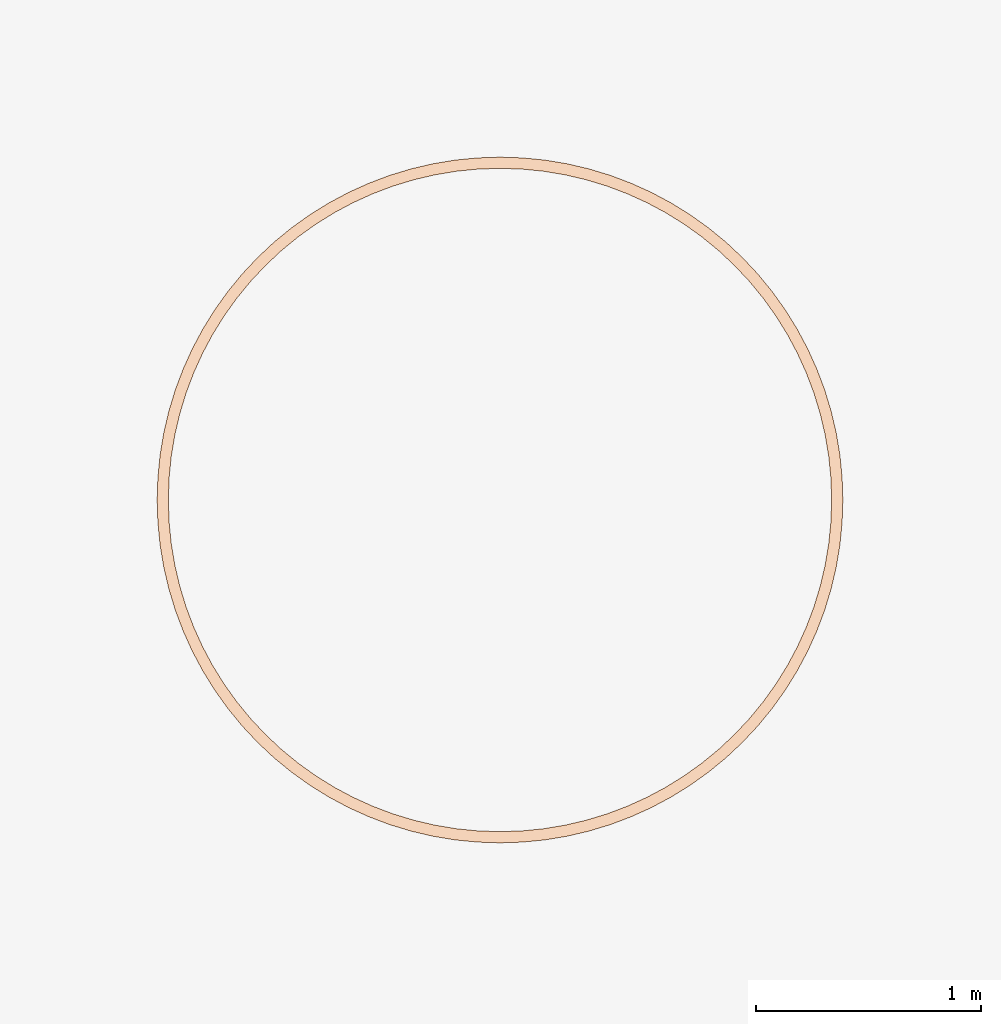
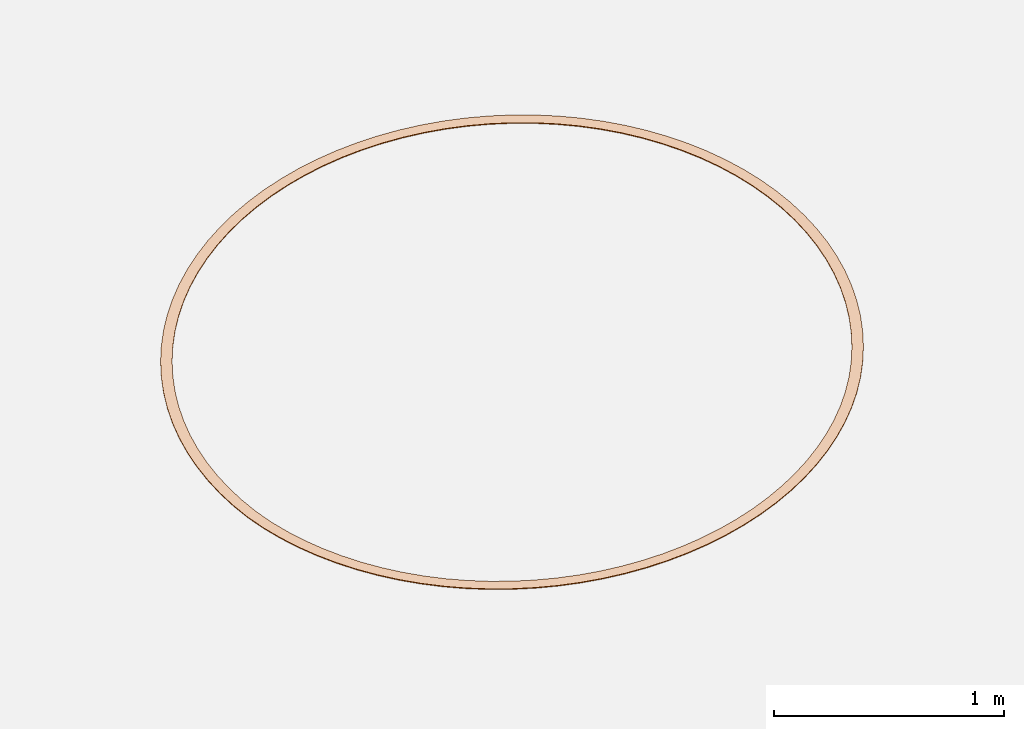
# Not in any storey, part 62 of 72: 1 geographic element.
"""IFC4 model written with IfcOpenShell, lengths in metres."""

from ifc_helpers import new_model, si_unit, direction, frame, origin_with_axes, place, context, subcontext, project, spatial, polygons, material, element, save


model = new_model("IFC4")

# Units and contexts
model_context = context("Model", 3, precision=1e-05, world=origin_with_axes(), true_north=direction((0.0, 1.0)))
body_context = subcontext(model_context, "Body", "Model", "MODEL_VIEW")
ifc_project = project(units=[si_unit("AREAUNIT", "SQUARE_METRE"), si_unit("VOLUMEUNIT", "CUBIC_METRE"), si_unit("LENGTHUNIT", "METRE")], contexts=[model_context])

# Site
site_placement = place(None, origin_with_axes())
site = spatial("IfcSite", under=ifc_project, at=site_placement, Name="Lares · Rua das Mercês · artigo 4771")

# Geographic element
ifc_material = material(Name="Marcação de plantação · linha no terreno", Category="stone")
geographic_element_placement = place(site_placement, frame((0.0, 0.0, 0.0), z_axis=(0.0, 0.0, 1.0), x_axis=(1.0, -1.03767253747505e-17, 0.0)))
element("IfcGeographicElement", 1, at=geographic_element_placement, inside=site, material=ifc_material, Name="Marcação no solo · árvore indicativa 01", ObjectType="Marcação no solo · árvore indicativa 01", PredefinedType="USERDEFINED", context=body_context, shape_type="Tessellation", body=[
    polygons([(0.946365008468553, 14.0429823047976, 12.5790246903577), (0.946365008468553, 14.0429823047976, 12.5830246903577), (0.996365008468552, 14.0429823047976, 12.5833888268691), (0.996365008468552, 14.0429823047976, 12.5873888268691), (0.943206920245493, 14.1394519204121, 12.5883800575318), (0.943206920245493, 14.1394519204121, 12.5923800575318), (0.993099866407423, 14.1427220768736, 12.5930613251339), (0.993099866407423, 14.1427220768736, 12.5970613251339), (0.933746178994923, 14.2355084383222, 12.5971440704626), (0.933746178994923, 14.2355084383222, 12.6011440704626), (0.983318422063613, 14.2420347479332, 12.6021224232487), (0.983318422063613, 14.2420347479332, 12.6061224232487), (0.918023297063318, 14.3307405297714, 12.6052792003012), (0.918023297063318, 14.3307405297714, 12.6092792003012), (0.967062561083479, 14.3404950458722, 12.6105333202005), (0.967062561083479, 14.3404950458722, 12.6145333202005), (0.896105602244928, 14.4247403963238, 12.6127506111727), (0.896105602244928, 14.4247403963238, 12.6167506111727), (0.944401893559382, 14.4376813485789, 12.6182579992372), (0.944401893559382, 14.4376813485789, 12.6222579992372), (0.868086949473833, 14.5171055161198, 12.6195263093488), (0.868086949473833, 14.5171055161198, 12.6235263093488), (0.915433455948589, 14.5331774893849, 12.6252633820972), (0.915433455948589, 14.5331774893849, 12.6292633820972), (0.8340873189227, 14.6074403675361, 12.6255772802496), (0.8340873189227, 14.6074403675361, 12.6295772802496), (0.880281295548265, 14.6265745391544, 12.6315194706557), (0.880281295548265, 14.6265745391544, 12.6355194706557), (0.794252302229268, 14.6953581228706, 12.6308776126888), (0.794252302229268, 14.6953581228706, 12.6348776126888), (0.839095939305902, 14.7174725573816, 12.636999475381), (0.839095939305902, 14.7174725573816, 12.6409994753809), (0.7487524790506, 14.7804823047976, 12.6354046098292), (0.7487524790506, 14.7804823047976, 12.6394046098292), (0.792053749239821, 14.8054823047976, 12.6416799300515), (0.792053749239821, 14.8054823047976, 12.6456799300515), (0.697782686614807, 14.8624483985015, 12.6391388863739), (0.697782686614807, 14.8624483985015, 12.6431388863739), (0.739356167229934, 14.8902269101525, 12.6455407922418), (0.739356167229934, 14.8902269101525, 12.6495407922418), (0.641561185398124, 14.9409054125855, 12.6420644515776), (0.641561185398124, 14.9409054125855, 12.6460644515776), (0.681228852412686, 14.9713434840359, 12.6485655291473), (0.681228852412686, 14.9713434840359, 12.6525655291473), (0.580328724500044, 15.0155173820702, 12.6441687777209), (0.580328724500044, 15.0155173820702, 12.6481687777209), (0.617920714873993, 15.0484846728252, 12.6507411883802), (0.617920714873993, 15.0484846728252, 12.6547411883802), (0.51434751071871, 15.0859648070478, 12.6454428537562), (0.51434751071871, 15.0859648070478, 12.6494428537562), (0.549702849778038, 15.1213201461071, 12.6520584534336), (0.549702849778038, 15.1213201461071, 12.6560584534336), (0.443900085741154, 15.1519460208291, 12.6458812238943), (0.443900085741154, 15.1519460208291, 12.6498812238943), (0.476867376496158, 15.189538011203, 12.6525116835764), (0.476867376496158, 15.189538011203, 12.6565116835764), (0.369288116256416, 15.2131784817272, 12.6454820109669), (0.369288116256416, 15.2131784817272, 12.6494820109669), (0.399726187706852, 15.2528461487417, 12.6520989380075), (0.399726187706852, 15.2528461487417, 12.6560989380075), (0.290831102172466, 15.2693999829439, 12.6442469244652), (0.290831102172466, 15.2693999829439, 12.6482469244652), (0.318609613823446, 15.310973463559, 12.6508219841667), (0.318609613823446, 15.310973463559, 12.6548219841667), (0.208865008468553, 15.3203697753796, 12.6421812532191), (0.208865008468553, 15.3203697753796, 12.6461812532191), (0.233865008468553, 15.3636710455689, 12.6486862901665), (0.233865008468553, 15.3636710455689, 12.6526862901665), (0.123740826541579, 15.3658695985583, 12.63929384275), (0.123740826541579, 15.3658695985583, 12.64329384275), (0.145855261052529, 15.410713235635, 12.6457010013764), (0.145855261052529, 15.410713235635, 12.6497010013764), (0.0358230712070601, 15.4057046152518, 12.6355970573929), (0.0358230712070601, 15.4057046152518, 12.6395970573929), (0.0549572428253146, 15.4518985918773, 12.6418789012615), (0.0549572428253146, 15.4518985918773, 12.6458789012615), (-0.0545117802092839, 15.4397042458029, 12.6311067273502), (-0.0545117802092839, 15.4397042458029, 12.6351067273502), (-0.0384398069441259, 15.4870507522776, 12.637236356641), (-0.0384398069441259, 15.4870507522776, 12.641236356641), (-0.146876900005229, 15.467722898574, 12.6258420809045), (-0.146876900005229, 15.467722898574, 12.6298420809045), (-0.133935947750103, 15.5160191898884, 12.6317932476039), (-0.133935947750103, 15.5160191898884, 12.6357932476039), (-0.240876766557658, 15.4896405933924, 12.6198256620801), (-0.240876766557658, 15.4896405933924, 12.6238256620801), (-0.231122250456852, 15.5386798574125, 12.6255728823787), (-0.231122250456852, 15.5386798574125, 12.6295728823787), (-0.336108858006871, 15.505363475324, 12.613083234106), (-0.336108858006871, 15.505363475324, 12.617083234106), (-0.329582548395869, 15.5549357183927, 12.6186018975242), (-0.329582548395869, 15.5549357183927, 12.6226018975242), (-0.432165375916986, 15.5148242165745, 12.6056436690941), (-0.432165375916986, 15.5148242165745, 12.6096436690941), (-0.428895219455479, 15.5647171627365, 12.6109101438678), (-0.428895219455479, 15.5647171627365, 12.6149101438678), (-0.528634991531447, 15.5179823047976, 12.5975388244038), (-0.528634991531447, 15.5179823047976, 12.6015388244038), (-0.528634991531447, 15.5679823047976, 12.6025305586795), (-0.528634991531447, 15.5679823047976, 12.6065305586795), (-0.625104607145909, 15.5148242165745, 12.5888034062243), (-0.625104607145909, 15.5148242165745, 12.5928034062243), (-0.628374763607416, 15.5647171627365, 12.5934990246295), (-0.628374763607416, 15.5647171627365, 12.5974990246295), (-0.721161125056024, 15.505363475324, 12.5794748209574), (-0.721161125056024, 15.505363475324, 12.5834748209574), (-0.727687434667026, 15.5549357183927, 12.5838542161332), (-0.727687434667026, 15.5549357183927, 12.5878542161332), (-0.816393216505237, 15.4896405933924, 12.5695930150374), (-0.816393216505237, 15.4896405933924, 12.5735930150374), (-0.826147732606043, 15.5386798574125, 12.5736374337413), (-0.826147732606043, 15.5386798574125, 12.5776374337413), (-0.910393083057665, 15.467722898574, 12.5592003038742), (-0.910393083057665, 15.467722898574, 12.5632003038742), (-0.923334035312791, 15.5160191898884, 12.5628924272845), (-0.923334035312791, 15.5160191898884, 12.5668924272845), (-1.00275820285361, 15.4397042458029, 12.5483411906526), (-1.00275820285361, 15.4397042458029, 12.5523411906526), (-1.01883017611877, 15.4870507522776, 12.55166520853), (-1.01883017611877, 15.4870507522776, 12.55566520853), (-1.09309305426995, 15.4057046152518, 12.5370621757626), (-1.09309305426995, 15.4057046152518, 12.5410621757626), (-1.11222722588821, 15.4518985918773, 12.5400038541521), (-1.11222722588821, 15.4518985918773, 12.5440038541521), (-1.18101080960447, 15.3658695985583, 12.5254115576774), (-1.18101080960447, 15.3658695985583, 12.5294115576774), (-1.20312524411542, 15.410713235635, 12.5279582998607), (-1.20312524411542, 15.410713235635, 12.5319582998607), (-1.26613499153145, 15.3203697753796, 12.5134392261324), (-1.26613499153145, 15.3203697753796, 12.5174392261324), (-1.29113499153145, 15.3636710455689, 12.5155801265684), (-1.29113499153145, 15.3636710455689, 12.5195801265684), (-1.34810108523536, 15.2693999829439, 12.5011964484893), (-1.34810108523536, 15.2693999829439, 12.5051964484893), (-1.37587959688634, 15.310973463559, 12.5029223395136), (-1.37587959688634, 15.310973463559, 12.5069223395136), (-1.42655809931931, 15.2131784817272, 12.4887356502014), (-1.42655809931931, 15.2131784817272, 12.4927356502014), (-1.45699617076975, 15.2528461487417, 12.4900391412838), (-1.45699617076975, 15.2528461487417, 12.4940391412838), (-1.50117006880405, 15.1519460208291, 12.4761101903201), (-1.50117006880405, 15.1519460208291, 12.4801101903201), (-1.53413735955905, 15.189538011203, 12.4769856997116), (-1.53413735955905, 15.189538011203, 12.4809856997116), (-1.5716174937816, 15.0859648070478, 12.4633741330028), (-1.5716174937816, 15.0859648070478, 12.4673741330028), (-1.60697283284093, 15.1213201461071, 12.4638179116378), (-1.60697283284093, 15.1213201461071, 12.4678179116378), (-1.63759870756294, 15.0155173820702, 12.4505820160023), (-1.63759870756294, 15.0155173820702, 12.4545820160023), (-1.67519069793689, 15.0484846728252, 12.4505921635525), (-1.67519069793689, 15.0484846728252, 12.4545921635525), (-1.69883116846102, 14.9409054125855, 12.4377886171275), (-1.69883116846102, 14.9409054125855, 12.4417886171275), (-1.73849883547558, 14.9713434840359, 12.4373650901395), (-1.73849883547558, 14.9713434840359, 12.4413650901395), (-1.7550526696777, 14.8624483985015, 12.4250487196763), (-1.7550526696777, 14.8624483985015, 12.4290487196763), (-1.79662615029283, 14.8902269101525, 12.4241933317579), (-1.79662615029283, 14.8902269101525, 12.4281933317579), (-1.80602246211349, 14.7804823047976, 12.4124168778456), (-1.80602246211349, 14.7804823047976, 12.4164168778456), (-1.84932373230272, 14.8054823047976, 12.411133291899), (-1.84932373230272, 14.8054823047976, 12.415133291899), (-1.85152228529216, 14.6953581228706, 12.3999471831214), (-1.85152228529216, 14.6953581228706, 12.4039471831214), (-1.8963659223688, 14.7174725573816, 12.3982408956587), (-1.8963659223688, 14.7174725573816, 12.4022408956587), (-1.8913573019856, 14.6074403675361, 12.3876930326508), (-1.8913573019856, 14.6074403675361, 12.3916930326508), (-1.93755127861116, 14.6265745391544, 12.3855713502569), (-1.93755127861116, 14.6265745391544, 12.3895713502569), (-1.92535693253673, 14.5171055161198, 12.3757069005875), (-1.92535693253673, 14.5171055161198, 12.3797069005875), (-1.97270343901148, 14.5331774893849, 12.3731789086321), (-1.97270343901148, 14.5331774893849, 12.3771789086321), (-1.95337558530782, 14.4247403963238, 12.3640401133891), (-1.95337558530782, 14.4247403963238, 12.3680401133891), (-2.00167187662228, 14.4376813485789, 12.3611166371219), (-2.00167187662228, 14.4376813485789, 12.3651166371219), (-1.97529328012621, 14.3307405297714, 12.3527426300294), (-1.97529328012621, 14.3307405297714, 12.3567426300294), (-2.02433254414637, 14.3404950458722, 12.3494361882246), (-2.02433254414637, 14.3404950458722, 12.3534361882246), (-1.99101616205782, 14.2355084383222, 12.3418628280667), (-1.99101616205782, 14.2355084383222, 12.3458628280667), (-2.04058840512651, 14.2420347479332, 12.3381875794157), (-2.04058840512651, 14.2420347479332, 12.3421875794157), (-2.00047690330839, 14.1394519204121, 12.3314472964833), (-2.00047690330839, 14.1394519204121, 12.3354472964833), (-2.05036984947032, 14.1427220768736, 12.3274189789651), (-2.05036984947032, 14.1427220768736, 12.3314189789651), (-2.00363499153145, 14.0429823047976, 12.3215406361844), (-2.00363499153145, 14.0429823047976, 12.3255406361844), (-2.05363499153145, 14.0429823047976, 12.317176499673), (-2.05363499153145, 14.0429823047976, 12.321176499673), (-2.00047690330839, 13.9465126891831, 12.3121852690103), (-2.00047690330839, 13.9465126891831, 12.3161852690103), (-2.05036984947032, 13.9432425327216, 12.3075040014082), (-2.05036984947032, 13.9432425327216, 12.3115040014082), (-1.99101616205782, 13.850456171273, 12.3034212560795), (-1.99101616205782, 13.850456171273, 12.3074212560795), (-2.04058840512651, 13.843929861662, 12.2984429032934), (-2.04058840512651, 13.843929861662, 12.3024429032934), (-1.97529328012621, 13.7552240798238, 12.2952861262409), (-1.97529328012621, 13.7552240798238, 12.2992861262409), (-2.02433254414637, 13.745469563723, 12.2900320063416), (-2.02433254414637, 13.745469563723, 12.2940320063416), (-1.95337558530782, 13.6612242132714, 12.2892342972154), (-1.95337558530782, 13.6612242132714, 12.2932342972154), (-2.00167187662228, 13.6482832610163, 12.2843539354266), (-2.00167187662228, 13.6482832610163, 12.2883539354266), (-1.92535693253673, 13.5688590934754, 12.2847402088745), (-1.92535693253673, 13.5688590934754, 12.2887402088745), (-1.97270343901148, 13.5527871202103, 12.2797075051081), (-1.97270343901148, 13.5527871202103, 12.2837075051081), (-1.8913573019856, 13.4785242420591, 12.2808818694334), (-1.8913573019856, 13.4785242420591, 12.2848818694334), (-1.93755127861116, 13.4593900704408, 12.2757183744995), (-1.93755127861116, 13.4593900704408, 12.2797183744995), (-1.85152228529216, 13.3906064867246, 12.277675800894), (-1.85152228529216, 13.3906064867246, 12.281675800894), (-1.8963659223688, 13.3684920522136, 12.2724036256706), (-1.8963659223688, 13.3684920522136, 12.2764036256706), (-1.80602246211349, 13.3054823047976, 12.2751357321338), (-1.80602246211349, 13.3054823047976, 12.2791357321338), (-1.84932373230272, 13.2804823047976, 12.2697774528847), (-1.84932373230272, 13.2804823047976, 12.2737774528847), (-1.7550526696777, 13.2235162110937, 12.2732725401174), (-1.7550526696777, 13.2235162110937, 12.2772725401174), (-1.79662615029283, 13.1957376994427, 12.2678511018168), (-1.79662615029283, 13.1957376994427, 12.2718511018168), (-1.69883116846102, 13.1450591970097, 12.2720942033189), (-1.69883116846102, 13.1450591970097, 12.2760942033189), (-1.73849883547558, 13.1146211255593, 12.266632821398), (-1.73849883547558, 13.1146211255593, 12.270632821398), (-1.63759870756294, 13.070447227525, 12.2716057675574), (-1.63759870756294, 13.070447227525, 12.2756057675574), (-1.67519069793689, 13.03747993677, 12.2661278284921), (-1.67519069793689, 13.03747993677, 12.2701278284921), (-1.57161749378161, 12.9999998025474, 12.2718093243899), (-1.57161749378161, 12.9999998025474, 12.2758093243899), (-1.60697283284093, 12.9646444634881, 12.2663382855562), (-1.60697283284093, 12.9646444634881, 12.2703382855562), (-1.50117006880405, 12.9340185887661, 12.2727040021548), (-1.50117006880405, 12.9340185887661, 12.2767040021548), (-1.53413735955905, 12.8964265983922, 12.2672632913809), (-1.53413735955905, 12.8964265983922, 12.2712632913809), (-1.42655809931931, 12.872786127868, 12.2742859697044), (-1.42655809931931, 12.872786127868, 12.2782859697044), (-1.45699617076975, 12.8331184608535, 12.2688988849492), (-1.45699617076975, 12.8331184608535, 12.2728988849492), (-1.34810108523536, 12.8165646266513, 12.2765484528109), (-1.34810108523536, 12.8165646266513, 12.2805484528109), (-1.37587959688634, 12.7749911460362, 12.2712380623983), (-1.37587959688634, 12.7749911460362, 12.2752380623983), (-1.26613499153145, 12.7655948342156, 12.2794817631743), (-1.26613499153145, 12.7655948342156, 12.2834817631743), (-1.29113499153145, 12.7222935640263, 12.2742708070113), (-1.29113499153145, 12.7222935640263, 12.2782708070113), (-1.18101080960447, 12.7200950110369, 12.2830733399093), (-1.18101080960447, 12.7200950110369, 12.2870733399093), (-1.20312524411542, 12.6752513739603, 12.2779841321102), (-1.20312524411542, 12.6752513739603, 12.2819841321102), (-1.09309305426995, 12.6802599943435, 12.2873078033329), (-1.09309305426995, 12.6802599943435, 12.2913078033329), (-1.11222722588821, 12.6340660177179, 12.2823621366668), (-1.11222722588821, 12.6340660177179, 12.2863621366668), (-1.00275820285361, 12.6462603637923, 12.2921670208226), (-1.00275820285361, 12.6462603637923, 12.2961670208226), (-1.01883017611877, 12.5989138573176, 12.2873860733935), (-1.01883017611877, 12.5989138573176, 12.2913860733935), (-0.910393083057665, 12.6182417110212, 12.2976301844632), (-0.910393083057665, 12.6182417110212, 12.3016301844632), (-0.923334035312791, 12.5699454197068, 12.2930344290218), (-0.923334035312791, 12.5699454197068, 12.2970344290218), (-0.816393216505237, 12.5963240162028, 12.3036739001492), (-0.816393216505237, 12.5963240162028, 12.3076739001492), (-0.826147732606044, 12.5472847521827, 12.299283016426), (-0.826147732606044, 12.5472847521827, 12.303283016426), (-0.721161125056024, 12.5806011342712, 12.3102722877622), (-0.721161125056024, 12.5806011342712, 12.3142722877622), (-0.727687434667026, 12.5310288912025, 12.3061050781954), (-0.727687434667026, 12.5310288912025, 12.3101050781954), (-0.625104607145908, 12.5711403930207, 12.3173970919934), (-0.625104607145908, 12.5711403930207, 12.3213970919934), (-0.628374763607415, 12.5212474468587, 12.3134714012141), (-0.628374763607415, 12.5212474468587, 12.3174714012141), (-0.528634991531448, 12.5679823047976, 12.3250178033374), (-0.528634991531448, 12.5679823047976, 12.3290178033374), (-0.528634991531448, 12.5179823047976, 12.3213504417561), (-0.528634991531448, 12.5179823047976, 12.3253504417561), (-0.432165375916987, 12.5711403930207, 12.3331017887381), (-0.432165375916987, 12.5711403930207, 12.3371017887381), (-0.42889521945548, 12.5212474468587, 12.3297084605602), (-0.42889521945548, 12.5212474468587, 12.3337084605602), (-0.336108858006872, 12.5806011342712, 12.341614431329), (-0.336108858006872, 12.5806011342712, 12.345614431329), (-0.329582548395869, 12.5310288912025, 12.3385096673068), (-0.329582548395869, 12.5310288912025, 12.3425096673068), (-0.240876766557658, 12.5963240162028, 12.3505192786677), (-0.240876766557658, 12.5963240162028, 12.3545192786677), (-0.231122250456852, 12.5472847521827, 12.3477163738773), (-0.231122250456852, 12.5472847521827, 12.3517163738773), (-0.14687690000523, 12.6182417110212, 12.3597781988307), (-0.14687690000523, 12.6182417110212, 12.3637781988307), (-0.133935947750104, 12.5699454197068, 12.3572891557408), (-0.133935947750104, 12.5699454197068, 12.3612891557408), (-0.0545117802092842, 12.6462603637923, 12.3693515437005), (-0.0545117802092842, 12.6462603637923, 12.3733515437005), (-0.0384398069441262, 12.5989138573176, 12.3671870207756), (-0.0384398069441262, 12.5989138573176, 12.3711870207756), (0.0358230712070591, 12.6802599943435, 12.3791983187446), (0.0358230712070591, 12.6802599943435, 12.3831983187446), (0.0549572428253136, 12.6340660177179, 12.3773675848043), (0.0549572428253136, 12.6340660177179, 12.3813675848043), (0.123740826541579, 12.7200950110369, 12.3892763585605), (0.123740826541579, 12.7200950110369, 12.3932763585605), (0.145855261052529, 12.6752513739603, 12.3877872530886), (0.145855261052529, 12.6752513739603, 12.3917872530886), (0.208865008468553, 12.7655948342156, 12.3995425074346), (0.208865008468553, 12.7655948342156, 12.4035425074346), (0.233865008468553, 12.7222935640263, 12.3984014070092), (0.233865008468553, 12.7222935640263, 12.4024014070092), (0.290831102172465, 12.8165646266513, 12.4099528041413), (0.290831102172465, 12.8165646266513, 12.4139528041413), (0.318609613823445, 12.7749911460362, 12.4091645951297), (0.318609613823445, 12.7749911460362, 12.4131645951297), (0.369288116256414, 12.872786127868, 12.4204626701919), (0.369288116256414, 12.872786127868, 12.4244626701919), (0.39972618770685, 12.8331184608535, 12.4200307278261), (0.39972618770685, 12.8331184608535, 12.4240307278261), (0.443900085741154, 12.9340185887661, 12.4310271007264), (0.443900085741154, 12.9340185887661, 12.4350271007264), (0.476867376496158, 12.8964265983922, 12.4309532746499), (0.476867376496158, 12.8964265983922, 12.4349532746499), (0.51434751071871, 12.9999998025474, 12.4416008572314), (0.51434751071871, 12.9999998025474, 12.4456008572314), (0.549702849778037, 12.9646444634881, 12.4418854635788), (0.549702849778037, 12.9646444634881, 12.4458854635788), (0.580328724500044, 13.070447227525, 12.4521386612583), (0.580328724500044, 13.070447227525, 12.4561386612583), (0.617920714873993, 13.03747993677, 12.4527804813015), (0.617920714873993, 13.03747993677, 12.4567804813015), (0.641561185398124, 13.1450591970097, 12.4627767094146), (0.641561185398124, 13.1450591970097, 12.4667767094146), (0.681228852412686, 13.1146211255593, 12.4635916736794), (0.681228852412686, 13.1146211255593, 12.4675916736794), (0.697782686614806, 13.2235162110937, 12.4755166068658), (0.697782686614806, 13.2235162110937, 12.4795166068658), (0.739356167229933, 13.1957376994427, 12.4763719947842), (0.739356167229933, 13.1957376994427, 12.4803719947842), (0.748752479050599, 13.3054823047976, 12.4881484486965), (0.748752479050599, 13.3054823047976, 12.4921484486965), (0.792053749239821, 13.2804823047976, 12.4894320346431), (0.792053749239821, 13.2804823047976, 12.4934320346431), (0.794252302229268, 13.3906064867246, 12.5006181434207), (0.794252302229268, 13.3906064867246, 12.5046181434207), (0.839095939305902, 13.3684920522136, 12.5023244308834), (0.839095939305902, 13.3684920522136, 12.5063244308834), (0.834087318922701, 13.4785242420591, 12.5128722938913), (0.834087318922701, 13.4785242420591, 12.5168722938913), (0.880281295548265, 13.4593900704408, 12.5149939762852), (0.880281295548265, 13.4593900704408, 12.5189939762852), (0.868086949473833, 13.5688590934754, 12.5248584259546), (0.868086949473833, 13.5688590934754, 12.5288584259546), (0.915433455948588, 13.5527871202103, 12.52738641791), (0.915433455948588, 13.5527871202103, 12.53138641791), (0.896105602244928, 13.6612242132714, 12.5365252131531), (0.896105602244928, 13.6612242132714, 12.540525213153), (0.944401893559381, 13.6482832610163, 12.5394486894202), (0.944401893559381, 13.6482832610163, 12.5434486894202), (0.918023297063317, 13.7552240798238, 12.5478226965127), (0.918023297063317, 13.7552240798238, 12.5518226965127), (0.967062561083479, 13.745469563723, 12.5511291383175), (0.967062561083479, 13.745469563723, 12.5551291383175), (0.933746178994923, 13.850456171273, 12.5587024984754), (0.933746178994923, 13.850456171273, 12.5627024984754), (0.983318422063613, 13.843929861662, 12.5623777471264), (0.983318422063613, 13.843929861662, 12.5663777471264), (0.943206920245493, 13.9465126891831, 12.5691180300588), (0.943206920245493, 13.9465126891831, 12.5731180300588), (0.993099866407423, 13.9432425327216, 12.5731463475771), (0.993099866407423, 13.9432425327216, 12.5771463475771)], [[[5, 7, 3, 1]], [[4, 8, 6, 2]], [[2, 6, 5, 1]], [[7, 8, 4, 3]], [[9, 11, 7, 5]], [[8, 12, 10, 6]], [[6, 10, 9, 5]], [[11, 12, 8, 7]], [[13, 15, 11, 9]], [[12, 16, 14, 10]], [[10, 14, 13, 9]], [[15, 16, 12, 11]], [[17, 19, 15, 13]], [[16, 20, 18, 14]], [[14, 18, 17, 13]], [[19, 20, 16, 15]], [[21, 23, 19, 17]], [[20, 24, 22, 18]], [[18, 22, 21, 17]], [[23, 24, 20, 19]], [[25, 27, 23, 21]], [[24, 28, 26, 22]], [[22, 26, 25, 21]], [[27, 28, 24, 23]], [[29, 31, 27, 25]], [[28, 32, 30, 26]], [[26, 30, 29, 25]], [[31, 32, 28, 27]], [[33, 35, 31, 29]], [[32, 36, 34, 30]], [[30, 34, 33, 29]], [[35, 36, 32, 31]], [[37, 39, 35, 33]], [[36, 40, 38, 34]], [[34, 38, 37, 33]], [[39, 40, 36, 35]], [[41, 43, 39, 37]], [[40, 44, 42, 38]], [[38, 42, 41, 37]], [[43, 44, 40, 39]], [[45, 47, 43, 41]], [[44, 48, 46, 42]], [[42, 46, 45, 41]], [[47, 48, 44, 43]], [[49, 51, 47, 45]], [[48, 52, 50, 46]], [[46, 50, 49, 45]], [[51, 52, 48, 47]], [[53, 55, 51, 49]], [[52, 56, 54, 50]], [[50, 54, 53, 49]], [[55, 56, 52, 51]], [[57, 59, 55, 53]], [[56, 60, 58, 54]], [[54, 58, 57, 53]], [[59, 60, 56, 55]], [[61, 63, 59, 57]], [[60, 64, 62, 58]], [[58, 62, 61, 57]], [[63, 64, 60, 59]], [[65, 67, 63, 61]], [[64, 68, 66, 62]], [[62, 66, 65, 61]], [[67, 68, 64, 63]], [[69, 71, 67, 65]], [[68, 72, 70, 66]], [[66, 70, 69, 65]], [[71, 72, 68, 67]], [[73, 75, 71, 69]], [[72, 76, 74, 70]], [[70, 74, 73, 69]], [[75, 76, 72, 71]], [[77, 79, 75, 73]], [[76, 80, 78, 74]], [[74, 78, 77, 73]], [[79, 80, 76, 75]], [[81, 83, 79, 77]], [[80, 84, 82, 78]], [[78, 82, 81, 77]], [[83, 84, 80, 79]], [[85, 87, 83, 81]], [[84, 88, 86, 82]], [[82, 86, 85, 81]], [[87, 88, 84, 83]], [[89, 91, 87, 85]], [[88, 92, 90, 86]], [[86, 90, 89, 85]], [[91, 92, 88, 87]], [[93, 95, 91, 89]], [[92, 96, 94, 90]], [[90, 94, 93, 89]], [[95, 96, 92, 91]], [[97, 99, 95, 93]], [[96, 100, 98, 94]], [[94, 98, 97, 93]], [[99, 100, 96, 95]], [[101, 103, 99, 97]], [[100, 104, 102, 98]], [[98, 102, 101, 97]], [[103, 104, 100, 99]], [[105, 107, 103, 101]], [[104, 108, 106, 102]], [[102, 106, 105, 101]], [[107, 108, 104, 103]], [[109, 111, 107, 105]], [[108, 112, 110, 106]], [[106, 110, 109, 105]], [[111, 112, 108, 107]], [[113, 115, 111, 109]], [[112, 116, 114, 110]], [[110, 114, 113, 109]], [[115, 116, 112, 111]], [[117, 119, 115, 113]], [[116, 120, 118, 114]], [[114, 118, 117, 113]], [[119, 120, 116, 115]], [[121, 123, 119, 117]], [[120, 124, 122, 118]], [[118, 122, 121, 117]], [[123, 124, 120, 119]], [[125, 127, 123, 121]], [[124, 128, 126, 122]], [[122, 126, 125, 121]], [[127, 128, 124, 123]], [[129, 131, 127, 125]], [[128, 132, 130, 126]], [[126, 130, 129, 125]], [[131, 132, 128, 127]], [[133, 135, 131, 129]], [[132, 136, 134, 130]], [[130, 134, 133, 129]], [[135, 136, 132, 131]], [[137, 139, 135, 133]], [[136, 140, 138, 134]], [[134, 138, 137, 133]], [[139, 140, 136, 135]], [[141, 143, 139, 137]], [[140, 144, 142, 138]], [[138, 142, 141, 137]], [[143, 144, 140, 139]], [[145, 147, 143, 141]], [[144, 148, 146, 142]], [[142, 146, 145, 141]], [[147, 148, 144, 143]], [[149, 151, 147, 145]], [[148, 152, 150, 146]], [[146, 150, 149, 145]], [[151, 152, 148, 147]], [[153, 155, 151, 149]], [[152, 156, 154, 150]], [[150, 154, 153, 149]], [[155, 156, 152, 151]], [[157, 159, 155, 153]], [[156, 160, 158, 154]], [[154, 158, 157, 153]], [[159, 160, 156, 155]], [[161, 163, 159, 157]], [[160, 164, 162, 158]], [[158, 162, 161, 157]], [[163, 164, 160, 159]], [[165, 167, 163, 161]], [[164, 168, 166, 162]], [[162, 166, 165, 161]], [[167, 168, 164, 163]], [[169, 171, 167, 165]], [[168, 172, 170, 166]], [[166, 170, 169, 165]], [[171, 172, 168, 167]], [[173, 175, 171, 169]], [[172, 176, 174, 170]], [[170, 174, 173, 169]], [[175, 176, 172, 171]], [[177, 179, 175, 173]], [[176, 180, 178, 174]], [[174, 178, 177, 173]], [[179, 180, 176, 175]], [[181, 183, 179, 177]], [[180, 184, 182, 178]], [[178, 182, 181, 177]], [[183, 184, 180, 179]], [[185, 187, 183, 181]], [[184, 188, 186, 182]], [[182, 186, 185, 181]], [[187, 188, 184, 183]], [[189, 191, 187, 185]], [[188, 192, 190, 186]], [[186, 190, 189, 185]], [[191, 192, 188, 187]], [[193, 195, 191, 189]], [[192, 196, 194, 190]], [[190, 194, 193, 189]], [[195, 196, 192, 191]], [[197, 199, 195, 193]], [[196, 200, 198, 194]], [[194, 198, 197, 193]], [[199, 200, 196, 195]], [[201, 203, 199, 197]], [[200, 204, 202, 198]], [[198, 202, 201, 197]], [[203, 204, 200, 199]], [[205, 207, 203, 201]], [[204, 208, 206, 202]], [[202, 206, 205, 201]], [[207, 208, 204, 203]], [[209, 211, 207, 205]], [[208, 212, 210, 206]], [[206, 210, 209, 205]], [[211, 212, 208, 207]], [[213, 215, 211, 209]], [[212, 216, 214, 210]], [[210, 214, 213, 209]], [[215, 216, 212, 211]], [[217, 219, 215, 213]], [[216, 220, 218, 214]], [[214, 218, 217, 213]], [[219, 220, 216, 215]], [[221, 223, 219, 217]], [[220, 224, 222, 218]], [[218, 222, 221, 217]], [[223, 224, 220, 219]], [[225, 227, 223, 221]], [[224, 228, 226, 222]], [[222, 226, 225, 221]], [[227, 228, 224, 223]], [[229, 231, 227, 225]], [[228, 232, 230, 226]], [[226, 230, 229, 225]], [[231, 232, 228, 227]], [[233, 235, 231, 229]], [[232, 236, 234, 230]], [[230, 234, 233, 229]], [[235, 236, 232, 231]], [[237, 239, 235, 233]], [[236, 240, 238, 234]], [[234, 238, 237, 233]], [[239, 240, 236, 235]], [[241, 243, 239, 237]], [[240, 244, 242, 238]], [[238, 242, 241, 237]], [[243, 244, 240, 239]], [[245, 247, 243, 241]], [[244, 248, 246, 242]], [[242, 246, 245, 241]], [[247, 248, 244, 243]], [[249, 251, 247, 245]], [[248, 252, 250, 246]], [[246, 250, 249, 245]], [[251, 252, 248, 247]], [[253, 255, 251, 249]], [[252, 256, 254, 250]], [[250, 254, 253, 249]], [[255, 256, 252, 251]], [[257, 259, 255, 253]], [[256, 260, 258, 254]], [[254, 258, 257, 253]], [[259, 260, 256, 255]], [[261, 263, 259, 257]], [[260, 264, 262, 258]], [[258, 262, 261, 257]], [[263, 264, 260, 259]], [[265, 267, 263, 261]], [[264, 268, 266, 262]], [[262, 266, 265, 261]], [[267, 268, 264, 263]], [[269, 271, 267, 265]], [[268, 272, 270, 266]], [[266, 270, 269, 265]], [[271, 272, 268, 267]], [[273, 275, 271, 269]], [[272, 276, 274, 270]], [[270, 274, 273, 269]], [[275, 276, 272, 271]], [[277, 279, 275, 273]], [[276, 280, 278, 274]], [[274, 278, 277, 273]], [[279, 280, 276, 275]], [[281, 283, 279, 277]], [[280, 284, 282, 278]], [[278, 282, 281, 277]], [[283, 284, 280, 279]], [[285, 287, 283, 281]], [[284, 288, 286, 282]], [[282, 286, 285, 281]], [[287, 288, 284, 283]], [[289, 291, 287, 285]], [[288, 292, 290, 286]], [[286, 290, 289, 285]], [[291, 292, 288, 287]], [[293, 295, 291, 289]], [[292, 296, 294, 290]], [[290, 294, 293, 289]], [[295, 296, 292, 291]], [[297, 299, 295, 293]], [[296, 300, 298, 294]], [[294, 298, 297, 293]], [[299, 300, 296, 295]], [[301, 303, 299, 297]], [[300, 304, 302, 298]], [[298, 302, 301, 297]], [[303, 304, 300, 299]], [[305, 307, 303, 301]], [[304, 308, 306, 302]], [[302, 306, 305, 301]], [[307, 308, 304, 303]], [[309, 311, 307, 305]], [[308, 312, 310, 306]], [[306, 310, 309, 305]], [[311, 312, 308, 307]], [[313, 315, 311, 309]], [[312, 316, 314, 310]], [[310, 314, 313, 309]], [[315, 316, 312, 311]], [[317, 319, 315, 313]], [[316, 320, 318, 314]], [[314, 318, 317, 313]], [[319, 320, 316, 315]], [[321, 323, 319, 317]], [[320, 324, 322, 318]], [[318, 322, 321, 317]], [[323, 324, 320, 319]], [[325, 327, 323, 321]], [[324, 328, 326, 322]], [[322, 326, 325, 321]], [[327, 328, 324, 323]], [[329, 331, 327, 325]], [[328, 332, 330, 326]], [[326, 330, 329, 325]], [[331, 332, 328, 327]], [[333, 335, 331, 329]], [[332, 336, 334, 330]], [[330, 334, 333, 329]], [[335, 336, 332, 331]], [[337, 339, 335, 333]], [[336, 340, 338, 334]], [[334, 338, 337, 333]], [[339, 340, 336, 335]], [[341, 343, 339, 337]], [[340, 344, 342, 338]], [[338, 342, 341, 337]], [[343, 344, 340, 339]], [[345, 347, 343, 341]], [[344, 348, 346, 342]], [[342, 346, 345, 341]], [[347, 348, 344, 343]], [[349, 351, 347, 345]], [[348, 352, 350, 346]], [[346, 350, 349, 345]], [[351, 352, 348, 347]], [[353, 355, 351, 349]], [[352, 356, 354, 350]], [[350, 354, 353, 349]], [[355, 356, 352, 351]], [[357, 359, 355, 353]], [[356, 360, 358, 354]], [[354, 358, 357, 353]], [[359, 360, 356, 355]], [[361, 363, 359, 357]], [[360, 364, 362, 358]], [[358, 362, 361, 357]], [[363, 364, 360, 359]], [[365, 367, 363, 361]], [[364, 368, 366, 362]], [[362, 366, 365, 361]], [[367, 368, 364, 363]], [[369, 371, 367, 365]], [[368, 372, 370, 366]], [[366, 370, 369, 365]], [[371, 372, 368, 367]], [[373, 375, 371, 369]], [[372, 376, 374, 370]], [[370, 374, 373, 369]], [[375, 376, 372, 371]], [[377, 379, 375, 373]], [[376, 380, 378, 374]], [[374, 378, 377, 373]], [[379, 380, 376, 375]], [[381, 383, 379, 377]], [[380, 384, 382, 378]], [[378, 382, 381, 377]], [[383, 384, 380, 379]], [[1, 3, 383, 381]], [[384, 4, 2, 382]], [[382, 2, 1, 381]], [[3, 4, 384, 383]]]),
])

save(model, "model.ifc")
